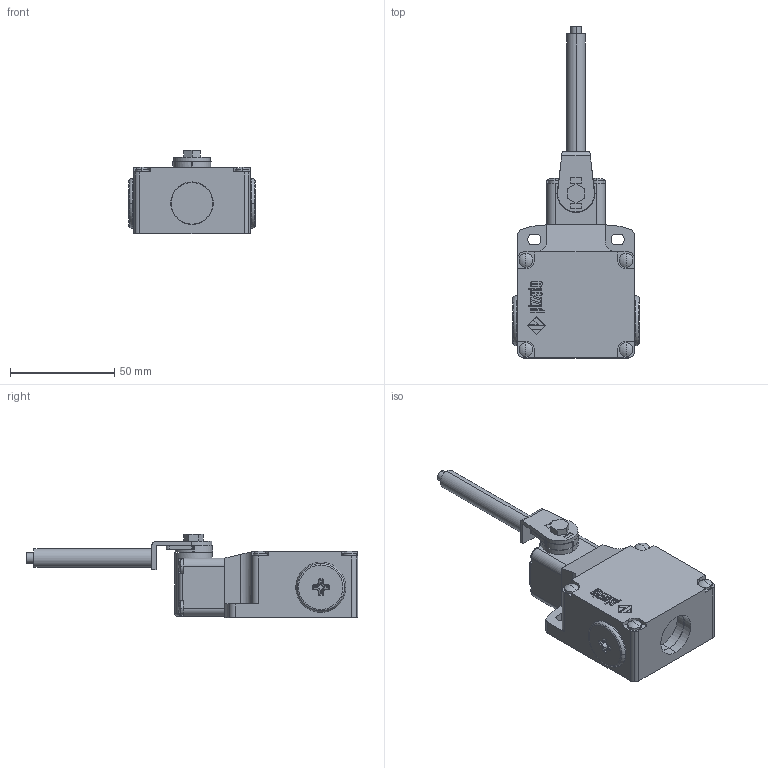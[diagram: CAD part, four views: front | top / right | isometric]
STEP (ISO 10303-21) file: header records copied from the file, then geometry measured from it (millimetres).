
FILE_DESCRIPTION (( 'STEP AP203' ), '1' );
FILE_NAME ('ZF_STEP_FL_x53.STEP', '2025-03-18T10:28:18', ( '' ), ( '' ), 'SwSTEP 2.0', 'SolidWorks 2023', '' );
FILE_SCHEMA (( 'CONFIG_CONTROL_DESIGN' ));
Length unit declared in the file: millimetre
Products named in the file (11): Pizzato_Supporto_T58; Pizzato_Custodia_FL_3dweb; ZF_STEP_VF_PTM20_M20x1; Pizzato_L53; Pizzato_supporto-leva_serie_pesanti_262; ZF_STEP_VF_PTM20_default; ZF_STEP_FL_x53; ZF_STEP_VF_T58; Pizzato_Custodia_FL; Vite_leve_pesanti; ZF_STEP_VF_L53
Assembly tree (11 placements, depth 3):
  ZF_STEP_FL_x53
    Pizzato_Custodia_FL_3dweb
      Pizzato_Custodia_FL
    ZF_STEP_VF_T58
      Pizzato_Supporto_T58
    ZF_STEP_VF_PTM20_M20x1  x2
      ZF_STEP_VF_PTM20_default
    ZF_STEP_VF_L53
      Pizzato_supporto-leva_serie_pesanti_262
      Vite_leve_pesanti
      Pizzato_L53
Bounding box: 60.8 x 159.1 x 39.8 mm (x, y, z)
Volume: 123663.1 mm3; surface area: 30102 mm2
Topology: 7 solids, 8 shells, 1002 faces, 2680 edges, 1734 vertices
Faces by surface type: plane 473, cylinder 334, bspline 151, sphere 32, torus 10, cone 2
Entity records: 33772 total; most frequent: CARTESIAN_POINT 9969, ORIENTED_EDGE 4932, DIRECTION 4421, EDGE_CURVE 2466, VERTEX_POINT 1622, LINE 1573, VECTOR 1573, AXIS2_PLACEMENT_3D 1424
